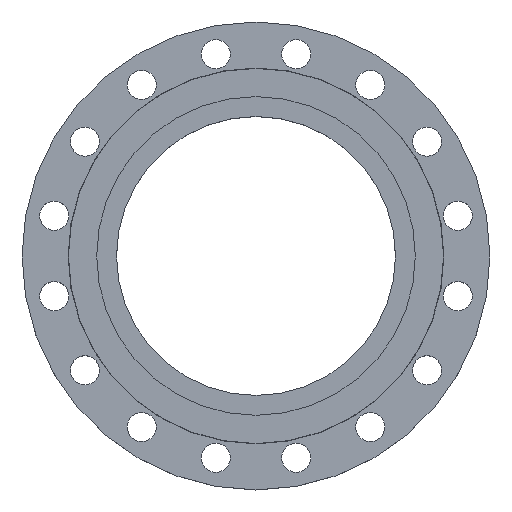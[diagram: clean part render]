
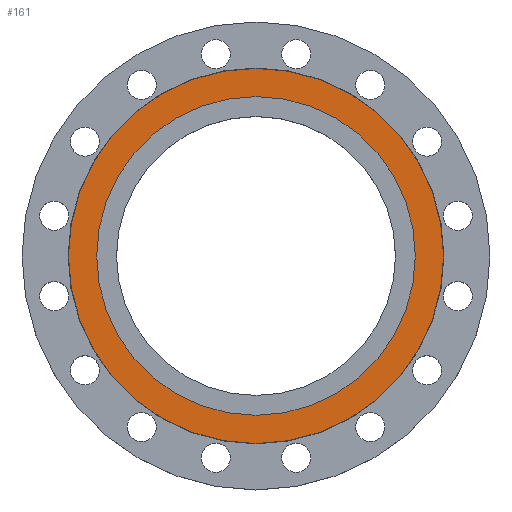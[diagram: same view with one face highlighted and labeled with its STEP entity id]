
A CAD part, top view. The second image highlights one B-rep face of the part: STEP entity #161.
In plain terms, the highlighted planar face has unit normal (0, 0, 1).
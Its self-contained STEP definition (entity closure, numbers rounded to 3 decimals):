
#48 = CARTESIAN_POINT ( 'NONE',  ( -232.5, 0., 0. ) ) ;
#161 = ADVANCED_FACE ( 'NONE', ( #426, #425 ), #424, .T. ) ;
#184 = CARTESIAN_POINT ( 'NONE',  ( 197.5, 0., 0. ) ) ;
#216 = CARTESIAN_POINT ( 'NONE',  ( -197.5, 0., 0. ) ) ;
#421 = DIRECTION ( 'NONE',  ( 1., 0., 0. ) ) ;
#422 = DIRECTION ( 'NONE',  ( 0., 0., 1. ) ) ;
#423 = CARTESIAN_POINT ( 'NONE',  ( 0., 0., 0. ) ) ;
#424 = PLANE ( 'NONE',  #1090 ) ;
#425 = FACE_BOUND ( 'NONE', #589, .T. ) ;
#426 = FACE_OUTER_BOUND ( 'NONE', #769, .T. ) ;
#546 = CIRCLE ( 'NONE', #552, 232.5 ) ;
#552 = AXIS2_PLACEMENT_3D ( 'NONE', #1016, #1007, #1005 ) ;
#589 = EDGE_LOOP ( 'NONE', ( #1252, #1255 ) ) ;
#597 = VERTEX_POINT ( 'NONE', #216 ) ;
#657 = DIRECTION ( 'NONE',  ( -1., 0., 0. ) ) ;
#663 = DIRECTION ( 'NONE',  ( 0., 0., -1. ) ) ;
#667 = CARTESIAN_POINT ( 'NONE',  ( 0., 0., 0. ) ) ;
#769 = EDGE_LOOP ( 'NONE', ( #1250, #1251 ) ) ;
#804 = CIRCLE ( 'NONE', #1249, 197.5 ) ;
#944 = VERTEX_POINT ( 'NONE', #48 ) ;
#1005 = DIRECTION ( 'NONE',  ( -1., 0., 0. ) ) ;
#1007 = DIRECTION ( 'NONE',  ( 0., 0., -1. ) ) ;
#1016 = CARTESIAN_POINT ( 'NONE',  ( 0., 0., 0. ) ) ;
#1021 = VERTEX_POINT ( 'NONE', #1679 ) ;
#1090 = AXIS2_PLACEMENT_3D ( 'NONE', #423, #422, #421 ) ;
#1142 = CIRCLE ( 'NONE', #1145, 197.5 ) ;
#1145 = AXIS2_PLACEMENT_3D ( 'NONE', #667, #663, #657 ) ;
#1202 = EDGE_CURVE ( 'NONE', #1574, #597, #804, .T. ) ;
#1249 = AXIS2_PLACEMENT_3D ( 'NONE', #1528, #1527, #1526 ) ;
#1250 = ORIENTED_EDGE ( 'NONE', *, *, #1368, .F. ) ;
#1251 = ORIENTED_EDGE ( 'NONE', *, *, #1254, .F. ) ;
#1252 = ORIENTED_EDGE ( 'NONE', *, *, #1426, .T. ) ;
#1254 = EDGE_CURVE ( 'NONE', #1021, #944, #1355, .T. ) ;
#1255 = ORIENTED_EDGE ( 'NONE', *, *, #1202, .T. ) ;
#1353 = AXIS2_PLACEMENT_3D ( 'NONE', #1488, #1482, #1484 ) ;
#1355 = CIRCLE ( 'NONE', #1353, 232.5 ) ;
#1368 = EDGE_CURVE ( 'NONE', #944, #1021, #546, .T. ) ;
#1426 = EDGE_CURVE ( 'NONE', #597, #1574, #1142, .T. ) ;
#1482 = DIRECTION ( 'NONE',  ( 0., 0., -1. ) ) ;
#1484 = DIRECTION ( 'NONE',  ( -1., 0., 0. ) ) ;
#1488 = CARTESIAN_POINT ( 'NONE',  ( 0., 0., 0. ) ) ;
#1526 = DIRECTION ( 'NONE',  ( -1., 0., 0. ) ) ;
#1527 = DIRECTION ( 'NONE',  ( 0., 0., -1. ) ) ;
#1528 = CARTESIAN_POINT ( 'NONE',  ( 0., 0., 0. ) ) ;
#1574 = VERTEX_POINT ( 'NONE', #184 ) ;
#1679 = CARTESIAN_POINT ( 'NONE',  ( 232.5, 0., 0. ) ) ;
